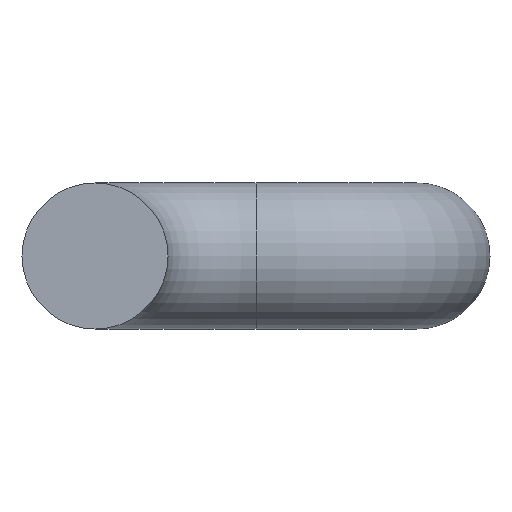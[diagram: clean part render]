
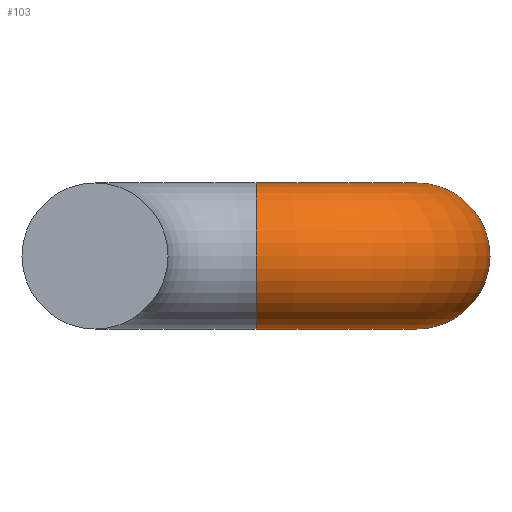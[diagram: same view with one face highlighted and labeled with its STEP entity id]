
A CAD part, front view. The second image highlights one B-rep face of the part: STEP entity #103.
In plain terms, the highlighted toroidal (fillet/blend) face has major radius 12 mm and minor radius 5.445 mm.
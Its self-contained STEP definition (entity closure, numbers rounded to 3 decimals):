
#24 = VERTEX_POINT('',#25);
#25 = CARTESIAN_POINT('',(36.445,-16.7,457.5));
#32 = CYLINDRICAL_SURFACE('',#33,5.445);
#33 = AXIS2_PLACEMENT_3D('',#34,#35,#36);
#34 = CARTESIAN_POINT('',(31.,-13.7,457.5));
#35 = DIRECTION('',(0.,-1.,0.));
#36 = DIRECTION('',(1.,0.,0.));
#50 = EDGE_CURVE('',#24,#24,#51,.T.);
#51 = SURFACE_CURVE('',#52,(#57,#64),.PCURVE_S1.);
#52 = CIRCLE('',#53,5.445);
#53 = AXIS2_PLACEMENT_3D('',#54,#55,#56);
#54 = CARTESIAN_POINT('',(31.,-16.7,457.5));
#55 = DIRECTION('',(0.,-1.,0.));
#56 = DIRECTION('',(1.,0.,0.));
#57 = PCURVE('',#32,#58);
#58 = DEFINITIONAL_REPRESENTATION('',(#59),#63);
#59 = LINE('',#60,#61);
#60 = CARTESIAN_POINT('',(0.,3.));
#61 = VECTOR('',#62,1.);
#62 = DIRECTION('',(1.,0.));
#63 = ( GEOMETRIC_REPRESENTATION_CONTEXT(2) 
PARAMETRIC_REPRESENTATION_CONTEXT() REPRESENTATION_CONTEXT('2D SPACE',''
  ) );
#64 = PCURVE('',#65,#70);
#65 = TOROIDAL_SURFACE('',#66,12.,5.445);
#66 = AXIS2_PLACEMENT_3D('',#67,#68,#69);
#67 = CARTESIAN_POINT('',(19.,-16.7,457.5));
#68 = DIRECTION('',(0.,-0.,-1.));
#69 = DIRECTION('',(1.,0.,0.));
#70 = DEFINITIONAL_REPRESENTATION('',(#71),#74);
#71 = B_SPLINE_CURVE_WITH_KNOTS('',1,(#72,#73),.UNSPECIFIED.,.F.,.F.,(2,
    2),(0.,6.283),.PIECEWISE_BEZIER_KNOTS.);
#72 = CARTESIAN_POINT('',(0.,6.283));
#73 = CARTESIAN_POINT('',(0.,0.));
#74 = ( GEOMETRIC_REPRESENTATION_CONTEXT(2) 
PARAMETRIC_REPRESENTATION_CONTEXT() REPRESENTATION_CONTEXT('2D SPACE',''
  ) );
#103 = ADVANCED_FACE('',(#104),#65,.T.);
#104 = FACE_BOUND('',#105,.T.);
#105 = EDGE_LOOP('',(#106,#129,#155,#156));
#106 = ORIENTED_EDGE('',*,*,#107,.T.);
#107 = EDGE_CURVE('',#24,#108,#110,.T.);
#108 = VERTEX_POINT('',#109);
#109 = CARTESIAN_POINT('',(19.,-34.145,457.5));
#110 = SEAM_CURVE('',#111,(#116,#122),.PCURVE_S1.);
#111 = CIRCLE('',#112,17.445);
#112 = AXIS2_PLACEMENT_3D('',#113,#114,#115);
#113 = CARTESIAN_POINT('',(19.,-16.7,457.5));
#114 = DIRECTION('',(0.,-0.,-1.));
#115 = DIRECTION('',(1.,0.,0.));
#116 = PCURVE('',#65,#117);
#117 = DEFINITIONAL_REPRESENTATION('',(#118),#121);
#118 = B_SPLINE_CURVE_WITH_KNOTS('',1,(#119,#120),.UNSPECIFIED.,.F.,.F.,
  (2,2),(0.,1.571),.PIECEWISE_BEZIER_KNOTS.);
#119 = CARTESIAN_POINT('',(0.,0.));
#120 = CARTESIAN_POINT('',(1.571,0.));
#121 = ( GEOMETRIC_REPRESENTATION_CONTEXT(2) 
PARAMETRIC_REPRESENTATION_CONTEXT() REPRESENTATION_CONTEXT('2D SPACE',''
  ) );
#122 = PCURVE('',#65,#123);
#123 = DEFINITIONAL_REPRESENTATION('',(#124),#128);
#124 = LINE('',#125,#126);
#125 = CARTESIAN_POINT('',(0.,6.283));
#126 = VECTOR('',#127,1.);
#127 = DIRECTION('',(1.,0.));
#128 = ( GEOMETRIC_REPRESENTATION_CONTEXT(2) 
PARAMETRIC_REPRESENTATION_CONTEXT() REPRESENTATION_CONTEXT('2D SPACE',''
  ) );
#129 = ORIENTED_EDGE('',*,*,#130,.T.);
#130 = EDGE_CURVE('',#108,#108,#131,.T.);
#131 = SURFACE_CURVE('',#132,(#137,#144),.PCURVE_S1.);
#132 = CIRCLE('',#133,5.445);
#133 = AXIS2_PLACEMENT_3D('',#134,#135,#136);
#134 = CARTESIAN_POINT('',(19.,-28.7,457.5));
#135 = DIRECTION('',(1.,0.,0.));
#136 = DIRECTION('',(0.,-1.,0.));
#137 = PCURVE('',#65,#138);
#138 = DEFINITIONAL_REPRESENTATION('',(#139),#143);
#139 = LINE('',#140,#141);
#140 = CARTESIAN_POINT('',(1.571,0.));
#141 = VECTOR('',#142,1.);
#142 = DIRECTION('',(0.,1.));
#143 = ( GEOMETRIC_REPRESENTATION_CONTEXT(2) 
PARAMETRIC_REPRESENTATION_CONTEXT() REPRESENTATION_CONTEXT('2D SPACE',''
  ) );
#144 = PCURVE('',#145,#150);
#145 = TOROIDAL_SURFACE('',#146,12.,5.445);
#146 = AXIS2_PLACEMENT_3D('',#147,#148,#149);
#147 = CARTESIAN_POINT('',(19.,-40.7,457.5));
#148 = DIRECTION('',(0.,0.,1.));
#149 = DIRECTION('',(0.,1.,0.));
#150 = DEFINITIONAL_REPRESENTATION('',(#151),#154);
#151 = B_SPLINE_CURVE_WITH_KNOTS('',1,(#152,#153),.UNSPECIFIED.,.F.,.F.,
  (2,2),(0.,6.283),.PIECEWISE_BEZIER_KNOTS.);
#152 = CARTESIAN_POINT('',(0.,3.142));
#153 = CARTESIAN_POINT('',(0.,9.425));
#154 = ( GEOMETRIC_REPRESENTATION_CONTEXT(2) 
PARAMETRIC_REPRESENTATION_CONTEXT() REPRESENTATION_CONTEXT('2D SPACE',''
  ) );
#155 = ORIENTED_EDGE('',*,*,#107,.F.);
#156 = ORIENTED_EDGE('',*,*,#50,.T.);
